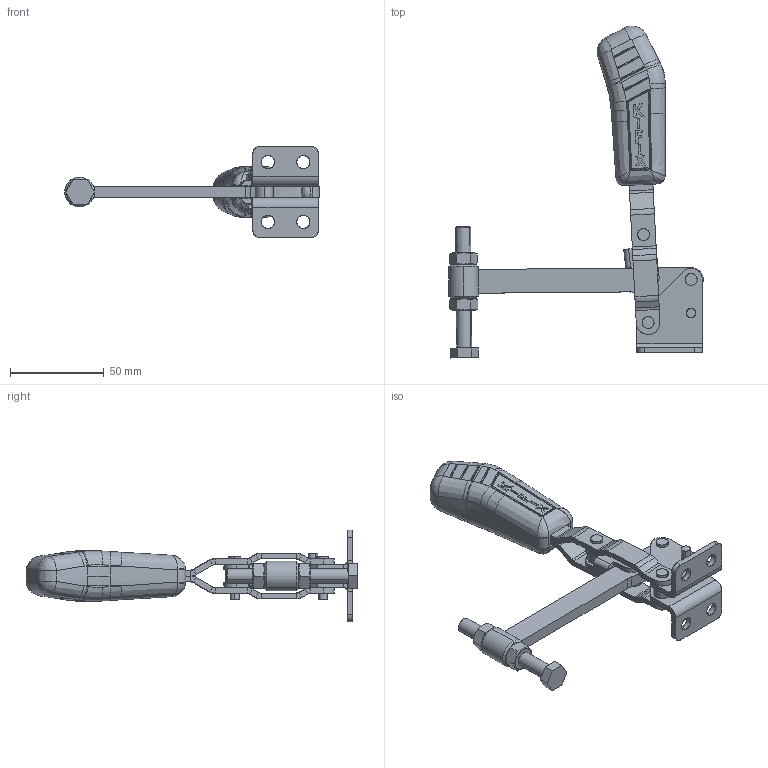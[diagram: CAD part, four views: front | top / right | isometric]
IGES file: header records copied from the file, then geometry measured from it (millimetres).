
Start section: SolidWorks IGES file using analytic representation for surfaces
Global section: file name: C:\Projetos\Grampos\KF-017\KF-017 DS\KF-017 DS.IGS; native system: SolidWorks 2013; preprocessor: SolidWorks 2013; author: Ricardo; date: 140728.150007; units: millimetre
Bounding box: 136.04 x 177.22 x 48.95 mm (x, y, z)
Surface area: 43653.7 mm2 (no closed solid volume)
Topology: 0 solids, 0 shells, 684 faces, 7409 edges, 7396 vertices
Faces by surface type: bspline 432, revolution 252
